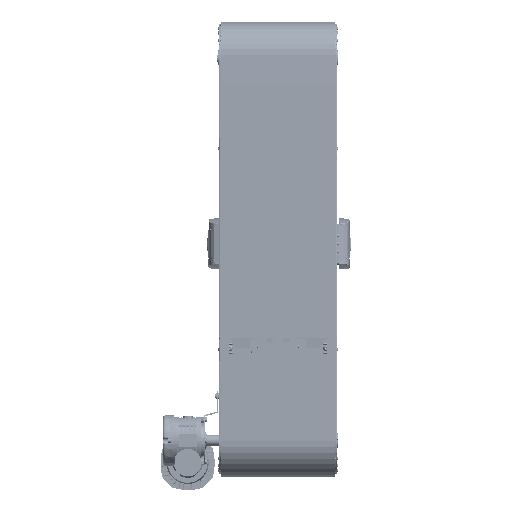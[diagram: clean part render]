
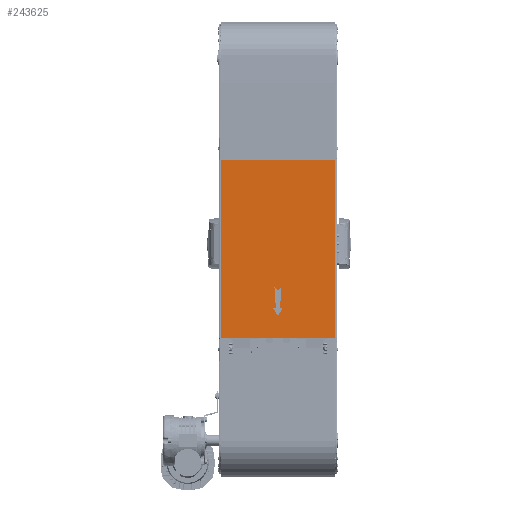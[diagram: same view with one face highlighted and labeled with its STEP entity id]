
A CAD part, top view. The second image highlights one B-rep face of the part: STEP entity #243625.
In plain terms, the highlighted planar face has unit normal (0, 0, 1) as drawn and (0, 1, 0) by its records, which use the part's own axes.
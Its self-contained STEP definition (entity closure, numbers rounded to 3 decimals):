
#2730 = CARTESIAN_POINT ( 'NONE',  ( -11.228, 4.83, 69.036 ) ) ;
#4986 = VECTOR ( 'NONE', #33939, 1000. ) ;
#10363 = EDGE_CURVE ( 'NONE', #318904, #238487, #21276, .T. ) ;
#21276 = LINE ( 'NONE', #324364, #102593 ) ;
#21433 = ORIENTED_EDGE ( 'NONE', *, *, #330235, .F. ) ;
#22973 = DIRECTION ( 'NONE',  ( 1., 0., 0. ) ) ;
#27380 = CARTESIAN_POINT ( 'NONE',  ( -127., 4.83, 0. ) ) ;
#30717 = CARTESIAN_POINT ( 'NONE',  ( -7.785, 4.83, 114.776 ) ) ;
#30803 = VERTEX_POINT ( 'NONE', #2730 ) ;
#33939 = DIRECTION ( 'NONE',  ( 1., 0., 0. ) ) ;
#36645 = CARTESIAN_POINT ( 'NONE',  ( 127., 4.83, 400. ) ) ;
#45433 = DIRECTION ( 'NONE',  ( 0., 0., -1. ) ) ;
#56448 = EDGE_CURVE ( 'NONE', #158140, #318904, #426087, .T. ) ;
#64812 = LINE ( 'NONE', #67324, #78127 ) ;
#66798 = DIRECTION ( 'NONE',  ( 1., 0., 0. ) ) ;
#67056 = CARTESIAN_POINT ( 'NONE',  ( 7.785, 4.83, 114.776 ) ) ;
#67324 = CARTESIAN_POINT ( 'NONE',  ( 7.785, 4.83, 114.776 ) ) ;
#68983 = ORIENTED_EDGE ( 'NONE', *, *, #333635, .F. ) ;
#75712 = VECTOR ( 'NONE', #88336, 1000. ) ;
#78127 = VECTOR ( 'NONE', #439348, 1000. ) ;
#81956 = VERTEX_POINT ( 'NONE', #30717 ) ;
#82231 = VECTOR ( 'NONE', #116126, 1000. ) ;
#83413 = CARTESIAN_POINT ( 'NONE',  ( 0., 4.83, 50. ) ) ;
#88336 = DIRECTION ( 'NONE',  ( -0.508, 0., 0.861 ) ) ;
#89561 = VECTOR ( 'NONE', #45433, 1000. ) ;
#99349 = VERTEX_POINT ( 'NONE', #260424 ) ;
#102593 = VECTOR ( 'NONE', #203251, 1000. ) ;
#107218 = CARTESIAN_POINT ( 'NONE',  ( -11.228, 4.83, 69.036 ) ) ;
#107461 = EDGE_CURVE ( 'NONE', #99349, #81956, #287710, .T. ) ;
#109584 = ORIENTED_EDGE ( 'NONE', *, *, #56448, .F. ) ;
#114571 = EDGE_CURVE ( 'NONE', #361248, #268856, #64812, .T. ) ;
#116126 = DIRECTION ( 'NONE',  ( 0., 0., -1. ) ) ;
#120047 = VECTOR ( 'NONE', #211961, 1000. ) ;
#120881 = EDGE_CURVE ( 'NONE', #386734, #121135, #469597, .T. ) ;
#121135 = VERTEX_POINT ( 'NONE', #27380 ) ;
#140079 = LINE ( 'NONE', #377370, #472744 ) ;
#141838 = VECTOR ( 'NONE', #306848, 1000. ) ;
#144825 = CARTESIAN_POINT ( 'NONE',  ( 127., 4.83, 400. ) ) ;
#148410 = EDGE_CURVE ( 'NONE', #238487, #30803, #287773, .T. ) ;
#150787 = CARTESIAN_POINT ( 'NONE',  ( -127., 4.83, 400. ) ) ;
#152785 = DIRECTION ( 'NONE',  ( 0., 0., 1. ) ) ;
#154643 = ORIENTED_EDGE ( 'NONE', *, *, #240850, .T. ) ;
#155649 = CARTESIAN_POINT ( 'NONE',  ( 11.228, 4.83, 69.036 ) ) ;
#158140 = VERTEX_POINT ( 'NONE', #445091 ) ;
#159394 = VERTEX_POINT ( 'NONE', #486376 ) ;
#171817 = VERTEX_POINT ( 'NONE', #144825 ) ;
#174165 = ORIENTED_EDGE ( 'NONE', *, *, #441569, .F. ) ;
#203251 = DIRECTION ( 'NONE',  ( -0.508, 0., -0.861 ) ) ;
#208480 = EDGE_LOOP ( 'NONE', ( #174165, #248139, #357435, #272974, #475599, #109584, #21433, #213475 ) ) ;
#211961 = DIRECTION ( 'NONE',  ( -0.065, 0., 0.998 ) ) ;
#212328 = EDGE_LOOP ( 'NONE', ( #215990, #68983, #499180, #154643 ) ) ;
#213475 = ORIENTED_EDGE ( 'NONE', *, *, #114571, .F. ) ;
#215990 = ORIENTED_EDGE ( 'NONE', *, *, #358832, .T. ) ;
#217549 = LINE ( 'NONE', #401976, #385090 ) ;
#225851 = LINE ( 'NONE', #107218, #4986 ) ;
#228534 = FACE_OUTER_BOUND ( 'NONE', #212328, .T. ) ;
#234144 = CARTESIAN_POINT ( 'NONE',  ( 11.228, 4.83, 69.036 ) ) ;
#238487 = VERTEX_POINT ( 'NONE', #462521 ) ;
#240850 = EDGE_CURVE ( 'NONE', #386734, #171817, #419278, .T. ) ;
#243625 = ADVANCED_FACE ( 'NONE', ( #372622, #228534 ), #382582, .T. ) ;
#248139 = ORIENTED_EDGE ( 'NONE', *, *, #107461, .F. ) ;
#253906 = CARTESIAN_POINT ( 'NONE',  ( 7.785, 4.83, 114.776 ) ) ;
#260238 = CARTESIAN_POINT ( 'NONE',  ( 127., 4.83, 400. ) ) ;
#260424 = CARTESIAN_POINT ( 'NONE',  ( -4.785, 4.83, 69.036 ) ) ;
#268856 = VERTEX_POINT ( 'NONE', #253906 ) ;
#272974 = ORIENTED_EDGE ( 'NONE', *, *, #148410, .F. ) ;
#280023 = VECTOR ( 'NONE', #22973, 1000. ) ;
#287710 = LINE ( 'NONE', #441743, #120047 ) ;
#287773 = LINE ( 'NONE', #83413, #75712 ) ;
#306848 = DIRECTION ( 'NONE',  ( -0.065, 0., -0.998 ) ) ;
#313123 = CARTESIAN_POINT ( 'NONE',  ( -127., 4.83, 400. ) ) ;
#318904 = VERTEX_POINT ( 'NONE', #155649 ) ;
#324364 = CARTESIAN_POINT ( 'NONE',  ( 0., 4.83, 50. ) ) ;
#330235 = EDGE_CURVE ( 'NONE', #268856, #158140, #385114, .T. ) ;
#333635 = EDGE_CURVE ( 'NONE', #121135, #159394, #140079, .T. ) ;
#340957 = CARTESIAN_POINT ( 'NONE',  ( 127., 4.83, 400. ) ) ;
#357435 = ORIENTED_EDGE ( 'NONE', *, *, #403700, .F. ) ;
#358832 = EDGE_CURVE ( 'NONE', #171817, #159394, #462107, .T. ) ;
#361248 = VERTEX_POINT ( 'NONE', #493918 ) ;
#362766 = VECTOR ( 'NONE', #418615, 1000. ) ;
#372622 = FACE_BOUND ( 'NONE', #208480, .T. ) ;
#377370 = CARTESIAN_POINT ( 'NONE',  ( 127., 4.83, 0. ) ) ;
#382582 = PLANE ( 'NONE',  #462078 ) ;
#385090 = VECTOR ( 'NONE', #406965, 1000. ) ;
#385114 = LINE ( 'NONE', #67056, #141838 ) ;
#386734 = VERTEX_POINT ( 'NONE', #150787 ) ;
#401976 = CARTESIAN_POINT ( 'NONE',  ( -7.785, 4.83, 114.776 ) ) ;
#403700 = EDGE_CURVE ( 'NONE', #30803, #99349, #225851, .T. ) ;
#406965 = DIRECTION ( 'NONE',  ( 0.778, 0., -0.628 ) ) ;
#418615 = DIRECTION ( 'NONE',  ( 1., 0., 0. ) ) ;
#419278 = LINE ( 'NONE', #260238, #280023 ) ;
#426087 = LINE ( 'NONE', #234144, #362766 ) ;
#439348 = DIRECTION ( 'NONE',  ( 0.778, 0., 0.628 ) ) ;
#441569 = EDGE_CURVE ( 'NONE', #81956, #361248, #217549, .T. ) ;
#441743 = CARTESIAN_POINT ( 'NONE',  ( -7.785, 4.83, 114.776 ) ) ;
#445091 = CARTESIAN_POINT ( 'NONE',  ( 4.785, 4.83, 69.036 ) ) ;
#462078 = AXIS2_PLACEMENT_3D ( 'NONE', #36645, #498756, #152785 ) ;
#462107 = LINE ( 'NONE', #340957, #82231 ) ;
#462521 = CARTESIAN_POINT ( 'NONE',  ( 0., 4.83, 50. ) ) ;
#469597 = LINE ( 'NONE', #313123, #89561 ) ;
#472744 = VECTOR ( 'NONE', #66798, 1000. ) ;
#475599 = ORIENTED_EDGE ( 'NONE', *, *, #10363, .F. ) ;
#486376 = CARTESIAN_POINT ( 'NONE',  ( 127., 4.83, 0. ) ) ;
#493918 = CARTESIAN_POINT ( 'NONE',  ( 0., 4.83, 108.492 ) ) ;
#498756 = DIRECTION ( 'NONE',  ( 0., 1., 0. ) ) ;
#499180 = ORIENTED_EDGE ( 'NONE', *, *, #120881, .F. ) ;
